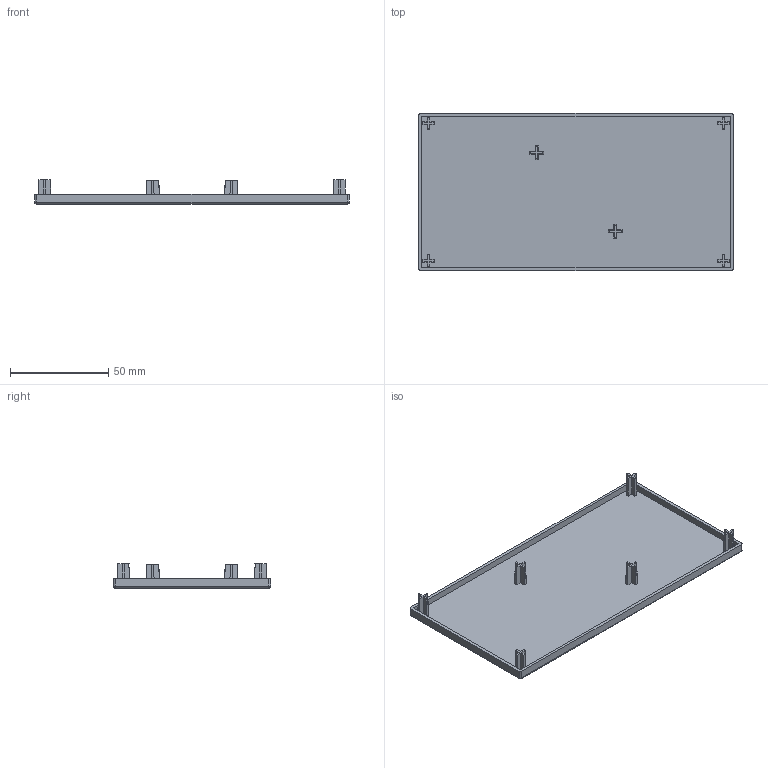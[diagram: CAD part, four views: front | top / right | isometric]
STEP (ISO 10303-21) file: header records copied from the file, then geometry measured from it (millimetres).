
FILE_DESCRIPTION (( 'STEP AP203' ), '1' );
FILE_NAME ('DEC80160.STEP', '2022-06-24T03:30:58', ( '' ), ( '' ), 'SwSTEP 2.0', 'SolidWorks 2017', '' );
FILE_SCHEMA (( 'CONFIG_CONTROL_DESIGN' ));
Length unit declared in the file: millimetre
Products named in the file (1): DEC80160
Bounding box: 160 x 80 x 12.3 mm (x, y, z)
Volume: 22444.1 mm3; surface area: 30971.1 mm2
Topology: 1 solids, 1 shells, 107 faces, 286 edges, 184 vertices
Faces by surface type: plane 65, cone 30, cylinder 8, sphere 4
Entity records: 3565 total; most frequent: CARTESIAN_POINT 862, ORIENTED_EDGE 564, DIRECTION 526, EDGE_CURVE 282, VERTEX_POINT 184, AXIS2_PLACEMENT_3D 184, VECTOR 158, LINE 158
